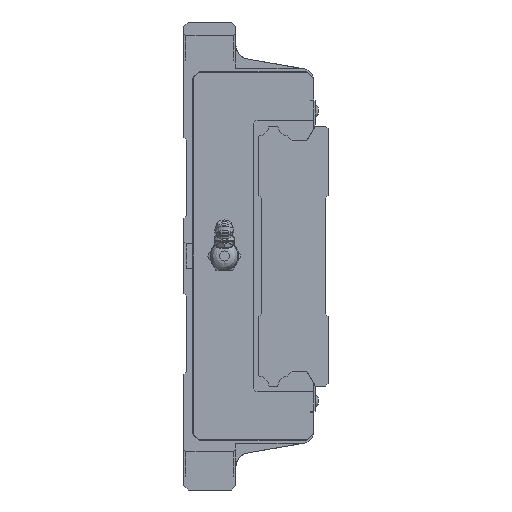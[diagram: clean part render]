
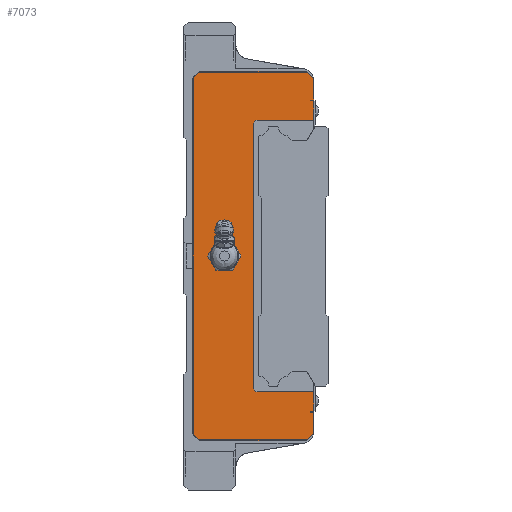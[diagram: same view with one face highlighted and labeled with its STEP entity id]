
A CAD part, left-side view. The second image highlights one B-rep face of the part: STEP entity #7073.
In plain terms, the highlighted planar face has unit normal (-1, 0, 0).
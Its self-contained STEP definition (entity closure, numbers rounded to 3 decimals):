
#106=LINE('',#10963,#544);
#121=LINE('',#10994,#559);
#128=LINE('',#11008,#566);
#132=LINE('',#11015,#570);
#142=LINE('',#11036,#580);
#145=LINE('',#11041,#583);
#164=LINE('',#11081,#602);
#165=LINE('',#11084,#603);
#166=LINE('',#11085,#604);
#167=LINE('',#11086,#605);
#168=LINE('',#11088,#606);
#169=LINE('',#11090,#607);
#170=LINE('',#11092,#608);
#171=LINE('',#11094,#609);
#172=LINE('',#11096,#610);
#173=LINE('',#11098,#611);
#174=LINE('',#11100,#612);
#175=LINE('',#11102,#613);
#176=LINE('',#11104,#614);
#177=LINE('',#11106,#615);
#178=LINE('',#11108,#616);
#179=LINE('',#11110,#617);
#544=VECTOR('',#8583,1000.);
#559=VECTOR('',#8600,1000.);
#566=VECTOR('',#8611,1000.);
#570=VECTOR('',#8617,1000.);
#580=VECTOR('',#8629,1000.);
#583=VECTOR('',#8634,1000.);
#602=VECTOR('',#8663,1000.);
#603=VECTOR('',#8664,1000.);
#604=VECTOR('',#8665,1000.);
#605=VECTOR('',#8666,1000.);
#606=VECTOR('',#8667,1000.);
#607=VECTOR('',#8668,1000.);
#608=VECTOR('',#8669,1000.);
#609=VECTOR('',#8670,1000.);
#610=VECTOR('',#8671,1000.);
#611=VECTOR('',#8672,1000.);
#612=VECTOR('',#8673,1000.);
#613=VECTOR('',#8674,1000.);
#614=VECTOR('',#8675,1000.);
#615=VECTOR('',#8676,1000.);
#616=VECTOR('',#8677,1000.);
#617=VECTOR('',#8678,1000.);
#960=PLANE('',#7593);
#1376=CIRCLE('',#7594,4.864);
#2006=ORIENTED_EDGE('',*,*,#3703,.T.);
#2007=ORIENTED_EDGE('',*,*,#3704,.F.);
#2008=ORIENTED_EDGE('',*,*,#3705,.F.);
#2009=ORIENTED_EDGE('',*,*,#3670,.F.);
#2010=ORIENTED_EDGE('',*,*,#3666,.F.);
#2011=ORIENTED_EDGE('',*,*,#3659,.F.);
#2012=ORIENTED_EDGE('',*,*,#3706,.F.);
#2013=ORIENTED_EDGE('',*,*,#3644,.F.);
#2014=ORIENTED_EDGE('',*,*,#3683,.F.);
#2015=ORIENTED_EDGE('',*,*,#3680,.F.);
#2016=ORIENTED_EDGE('',*,*,#3707,.F.);
#2017=ORIENTED_EDGE('',*,*,#3708,.F.);
#2018=ORIENTED_EDGE('',*,*,#3709,.F.);
#2019=ORIENTED_EDGE('',*,*,#3710,.F.);
#2020=ORIENTED_EDGE('',*,*,#3711,.F.);
#2021=ORIENTED_EDGE('',*,*,#3712,.T.);
#2022=ORIENTED_EDGE('',*,*,#3713,.T.);
#2023=ORIENTED_EDGE('',*,*,#3714,.T.);
#2024=ORIENTED_EDGE('',*,*,#3715,.T.);
#2025=ORIENTED_EDGE('',*,*,#3716,.T.);
#2026=ORIENTED_EDGE('',*,*,#3717,.F.);
#2027=ORIENTED_EDGE('',*,*,#3718,.F.);
#2028=ORIENTED_EDGE('',*,*,#3719,.F.);
#3644=EDGE_CURVE('',#4508,#4509,#106,.T.);
#3659=EDGE_CURVE('',#4523,#4524,#121,.T.);
#3666=EDGE_CURVE('',#4524,#4529,#128,.T.);
#3670=EDGE_CURVE('',#4529,#4531,#132,.T.);
#3680=EDGE_CURVE('',#4540,#4541,#142,.T.);
#3683=EDGE_CURVE('',#4541,#4508,#145,.T.);
#3703=EDGE_CURVE('',#4557,#4557,#1376,.T.);
#3704=EDGE_CURVE('',#4558,#4559,#164,.T.);
#3705=EDGE_CURVE('',#4531,#4558,#165,.T.);
#3706=EDGE_CURVE('',#4509,#4523,#166,.T.);
#3707=EDGE_CURVE('',#4560,#4540,#167,.T.);
#3708=EDGE_CURVE('',#4561,#4560,#168,.T.);
#3709=EDGE_CURVE('',#4562,#4561,#169,.T.);
#3710=EDGE_CURVE('',#4563,#4562,#170,.T.);
#3711=EDGE_CURVE('',#4564,#4563,#171,.T.);
#3712=EDGE_CURVE('',#4564,#4565,#172,.T.);
#3713=EDGE_CURVE('',#4565,#4566,#173,.T.);
#3714=EDGE_CURVE('',#4566,#4567,#174,.T.);
#3715=EDGE_CURVE('',#4567,#4568,#175,.T.);
#3716=EDGE_CURVE('',#4568,#4569,#176,.T.);
#3717=EDGE_CURVE('',#4570,#4569,#177,.T.);
#3718=EDGE_CURVE('',#4571,#4570,#178,.T.);
#3719=EDGE_CURVE('',#4559,#4571,#179,.T.);
#4508=VERTEX_POINT('',#10962);
#4509=VERTEX_POINT('',#10964);
#4523=VERTEX_POINT('',#10993);
#4524=VERTEX_POINT('',#10995);
#4529=VERTEX_POINT('',#11009);
#4531=VERTEX_POINT('',#11016);
#4540=VERTEX_POINT('',#11035);
#4541=VERTEX_POINT('',#11037);
#4557=VERTEX_POINT('',#11080);
#4558=VERTEX_POINT('',#11082);
#4559=VERTEX_POINT('',#11083);
#4560=VERTEX_POINT('',#11087);
#4561=VERTEX_POINT('',#11089);
#4562=VERTEX_POINT('',#11091);
#4563=VERTEX_POINT('',#11093);
#4564=VERTEX_POINT('',#11095);
#4565=VERTEX_POINT('',#11097);
#4566=VERTEX_POINT('',#11099);
#4567=VERTEX_POINT('',#11101);
#4568=VERTEX_POINT('',#11103);
#4569=VERTEX_POINT('',#11105);
#4570=VERTEX_POINT('',#11107);
#4571=VERTEX_POINT('',#11109);
#5240=EDGE_LOOP('',(#2006));
#5241=EDGE_LOOP('',(#2007,#2008,#2009,#2010,#2011,#2012,#2013,#2014,#2015,
#2016,#2017,#2018,#2019,#2020,#2021,#2022,#2023,#2024,#2025,#2026,#2027,
#2028));
#6151=FACE_BOUND('',#5240,.T.);
#6152=FACE_BOUND('',#5241,.T.);
#7073=ADVANCED_FACE('',(#6151,#6152),#960,.F.);
#7593=AXIS2_PLACEMENT_3D('',#11078,#8659,#8660);
#7594=AXIS2_PLACEMENT_3D('',#11079,#8661,#8662);
#8583=DIRECTION('',(0.,0.707,0.707));
#8600=DIRECTION('',(0.,-0.707,0.707));
#8611=DIRECTION('',(0.,-1.,0.));
#8617=DIRECTION('',(0.,-0.707,-0.707));
#8629=DIRECTION('',(0.,0.707,-0.707));
#8634=DIRECTION('',(0.,1.,0.));
#8659=DIRECTION('',(1.,0.,0.));
#8660=DIRECTION('',(0.,0.,-1.));
#8661=DIRECTION('',(1.,0.,0.));
#8662=DIRECTION('',(0.,0.,-1.));
#8663=DIRECTION('',(0.,1.,0.));
#8664=DIRECTION('',(0.,0.,-1.));
#8665=DIRECTION('',(0.,0.,1.));
#8666=DIRECTION('',(0.,0.,-1.));
#8667=DIRECTION('',(0.,-1.,0.));
#8668=DIRECTION('',(0.,0.,-1.));
#8669=DIRECTION('',(0.,1.,0.));
#8670=DIRECTION('',(0.,0.,-1.));
#8671=DIRECTION('',(0.,1.,0.));
#8672=DIRECTION('',(0.,0.707,0.707));
#8673=DIRECTION('',(0.,0.,1.));
#8674=DIRECTION('',(0.,-0.707,0.707));
#8675=DIRECTION('',(0.,-1.,0.));
#8676=DIRECTION('',(0.,0.,-1.));
#8677=DIRECTION('',(0.,-1.,0.));
#8678=DIRECTION('',(0.,0.,-1.));
#10962=CARTESIAN_POINT('',(-68.75,41.1,-64.));
#10963=CARTESIAN_POINT('',(-68.75,41.1,-64.));
#10964=CARTESIAN_POINT('',(-68.75,43.6,-61.5));
#10993=CARTESIAN_POINT('',(-68.75,43.6,61.5));
#10994=CARTESIAN_POINT('',(-68.75,43.6,61.5));
#10995=CARTESIAN_POINT('',(-68.75,41.1,64.));
#11008=CARTESIAN_POINT('',(-68.75,46.6,64.));
#11009=CARTESIAN_POINT('',(-68.75,4.2,64.));
#11015=CARTESIAN_POINT('',(-68.75,4.2,64.));
#11016=CARTESIAN_POINT('',(-68.75,1.6,61.4));
#11035=CARTESIAN_POINT('',(-68.75,1.6,-61.4));
#11036=CARTESIAN_POINT('',(-68.75,1.6,-61.4));
#11037=CARTESIAN_POINT('',(-68.75,4.2,-64.));
#11041=CARTESIAN_POINT('',(-68.75,0.,-64.));
#11078=CARTESIAN_POINT('',(-68.75,0.,0.));
#11079=CARTESIAN_POINT('',(-68.75,32.6,0.));
#11080=CARTESIAN_POINT('',(-68.75,32.6,-4.864));
#11081=CARTESIAN_POINT('',(-68.75,0.,54.));
#11082=CARTESIAN_POINT('',(-68.75,1.6,54.));
#11083=CARTESIAN_POINT('',(-68.75,2.779,54.));
#11084=CARTESIAN_POINT('',(-68.75,1.6,60.808));
#11085=CARTESIAN_POINT('',(-68.75,43.6,-61.5));
#11086=CARTESIAN_POINT('',(-68.75,1.6,60.808));
#11087=CARTESIAN_POINT('',(-68.75,1.6,-54.));
#11088=CARTESIAN_POINT('',(-68.75,0.,-54.));
#11089=CARTESIAN_POINT('',(-68.75,2.779,-54.));
#11090=CARTESIAN_POINT('',(-68.75,2.779,0.));
#11091=CARTESIAN_POINT('',(-68.75,2.779,-53.7));
#11092=CARTESIAN_POINT('',(-68.75,0.,-53.7));
#11093=CARTESIAN_POINT('',(-68.75,1.6,-53.7));
#11094=CARTESIAN_POINT('',(-68.75,1.6,60.808));
#11095=CARTESIAN_POINT('',(-68.75,1.6,-47.));
#11096=CARTESIAN_POINT('',(-68.75,1.6,-47.));
#11097=CARTESIAN_POINT('',(-68.75,21.6,-47.));
#11098=CARTESIAN_POINT('',(-68.75,21.6,-47.));
#11099=CARTESIAN_POINT('',(-68.75,22.6,-46.));
#11100=CARTESIAN_POINT('',(-68.75,22.6,-46.));
#11101=CARTESIAN_POINT('',(-68.75,22.6,46.));
#11102=CARTESIAN_POINT('',(-68.75,22.6,46.));
#11103=CARTESIAN_POINT('',(-68.75,21.6,47.));
#11104=CARTESIAN_POINT('',(-68.75,21.6,47.));
#11105=CARTESIAN_POINT('',(-68.75,1.6,47.));
#11106=CARTESIAN_POINT('',(-68.75,1.6,60.808));
#11107=CARTESIAN_POINT('',(-68.75,1.6,53.7));
#11108=CARTESIAN_POINT('',(-68.75,0.,53.7));
#11109=CARTESIAN_POINT('',(-68.75,2.779,53.7));
#11110=CARTESIAN_POINT('',(-68.75,2.779,0.));
